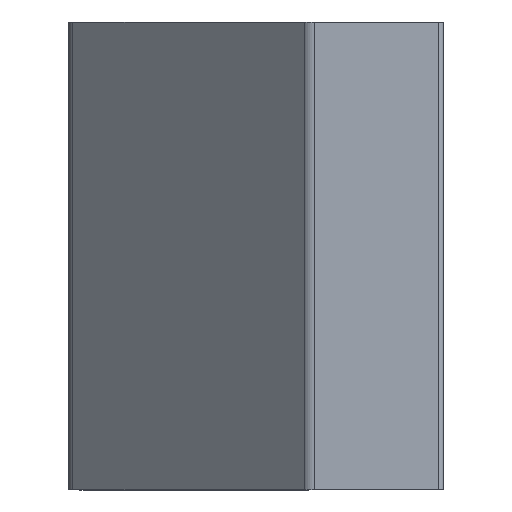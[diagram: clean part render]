
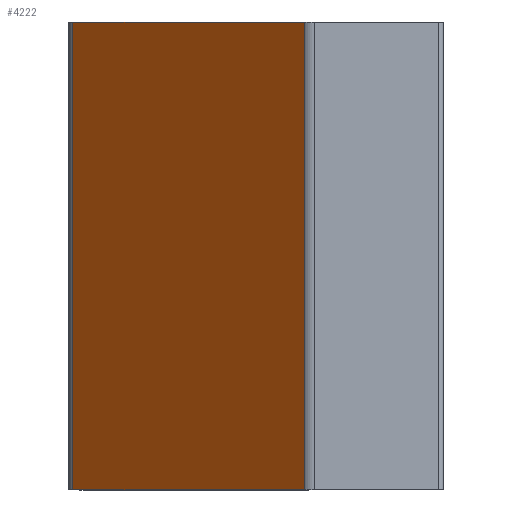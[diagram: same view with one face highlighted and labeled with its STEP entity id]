
A CAD part, front view. The second image highlights one B-rep face of the part: STEP entity #4222.
In plain terms, the highlighted planar face has unit normal (-0.707, -0.707, 0).
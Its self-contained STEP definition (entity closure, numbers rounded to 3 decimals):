
#1116=CARTESIAN_POINT('',(-19.121,-9.679,100.0));
#1117=VERTEX_POINT('',#1116);
#1125=CARTESIAN_POINT('',(30.321,-59.121,100.0));
#1126=VERTEX_POINT('',#1125);
#1127=CARTESIAN_POINT('',(-19.121,-9.679,100.0));
#1128=DIRECTION('',(0.707,-0.707,0.0));
#1129=VECTOR('',#1128,69.922);
#1130=LINE('',#1127,#1129);
#1131=EDGE_CURVE('',#1117,#1126,#1130,.T.);
#3464=CARTESIAN_POINT('',(30.321,-59.121,0.0));
#3465=VERTEX_POINT('',#3464);
#3473=CARTESIAN_POINT('',(-19.121,-9.679,0.0));
#3474=VERTEX_POINT('',#3473);
#3475=CARTESIAN_POINT('',(30.321,-59.121,0.0));
#3476=DIRECTION('',(-0.707,0.707,0.0));
#3477=VECTOR('',#3476,69.922);
#3478=LINE('',#3475,#3477);
#3479=EDGE_CURVE('',#3465,#3474,#3478,.T.);
#4197=CARTESIAN_POINT('',(-19.121,-9.679,0.0));
#4198=DIRECTION('',(0.0,0.0,1.0));
#4199=VECTOR('',#4198,100.0);
#4200=LINE('',#4197,#4199);
#4201=EDGE_CURVE('',#3474,#1117,#4200,.T.);
#4206=CARTESIAN_POINT('',(31.2,-60.0,100.0));
#4207=DIRECTION('',(0.707,0.707,0.0));
#4208=DIRECTION('',(0.0,0.0,-1.0));
#4209=AXIS2_PLACEMENT_3D('',#4206,#4207,#4208);
#4210=PLANE('',#4209);
#4211=ORIENTED_EDGE('',*,*,#4201,.F.);
#4212=ORIENTED_EDGE('',*,*,#3479,.F.);
#4213=CARTESIAN_POINT('',(30.321,-59.121,100.0));
#4214=DIRECTION('',(0.0,0.0,-1.0));
#4215=VECTOR('',#4214,100.0);
#4216=LINE('',#4213,#4215);
#4217=EDGE_CURVE('',#1126,#3465,#4216,.T.);
#4218=ORIENTED_EDGE('',*,*,#4217,.F.);
#4219=ORIENTED_EDGE('',*,*,#1131,.F.);
#4220=EDGE_LOOP('',(#4211,#4212,#4218,#4219));
#4221=FACE_OUTER_BOUND('',#4220,.T.);
#4222=ADVANCED_FACE('',(#4221),#4210,.F.);
